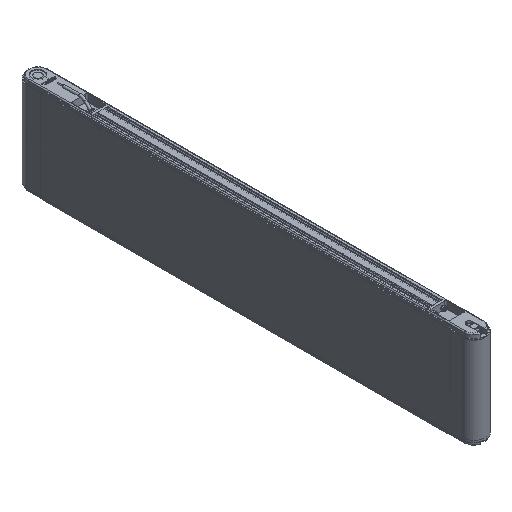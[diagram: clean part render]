
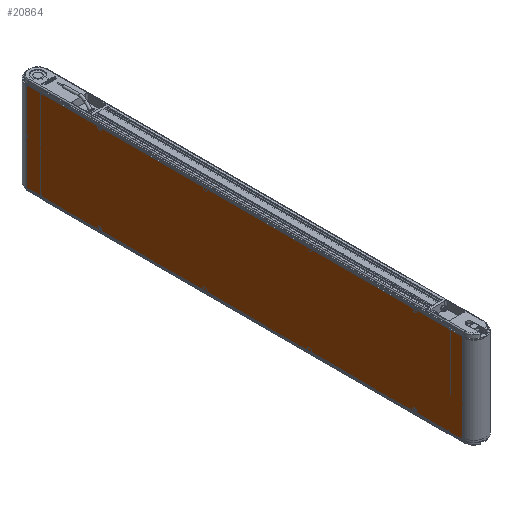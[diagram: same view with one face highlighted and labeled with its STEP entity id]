
A CAD part, isometric view. The second image highlights one B-rep face of the part: STEP entity #20864.
In plain terms, the highlighted planar face has unit normal (-1, 0, 0).
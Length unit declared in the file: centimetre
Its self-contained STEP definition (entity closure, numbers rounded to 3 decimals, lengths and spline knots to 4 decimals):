
#2220=FACE_OUTER_BOUND('',#3370,.T.);
#3370=EDGE_LOOP('',(#14062,#14063,#14064,#14065));
#4788=LINE('',#30797,#6409);
#4789=LINE('',#30802,#6410);
#4791=LINE('',#30806,#6412);
#4792=LINE('',#30807,#6413);
#6409=VECTOR('',#25162,1.);
#6410=VECTOR('',#25167,1.);
#6412=VECTOR('',#25171,1.);
#6413=VECTOR('',#25172,1.);
#8239=VERTEX_POINT('',#30791);
#8241=VERTEX_POINT('',#30795);
#8243=VERTEX_POINT('',#30800);
#8244=VERTEX_POINT('',#30805);
#10490=EDGE_CURVE('',#8239,#8241,#4788,.T.);
#10492=EDGE_CURVE('',#8243,#8241,#4789,.T.);
#10494=EDGE_CURVE('',#8243,#8244,#4791,.T.);
#10495=EDGE_CURVE('',#8244,#8239,#4792,.T.);
#14062=ORIENTED_EDGE('',*,*,#10494,.T.);
#14063=ORIENTED_EDGE('',*,*,#10495,.T.);
#14064=ORIENTED_EDGE('',*,*,#10490,.T.);
#14065=ORIENTED_EDGE('',*,*,#10492,.F.);
#19107=PLANE('',#22301);
#20864=ADVANCED_FACE('',(#2220),#19107,.T.);
#22301=AXIS2_PLACEMENT_3D('',#30804,#25169,#25170);
#25162=DIRECTION('',(0.,1.,0.));
#25167=DIRECTION('',(0.,0.,1.));
#25169=DIRECTION('center_axis',(-1.,0.,0.));
#25170=DIRECTION('ref_axis',(0.,0.,
1.));
#25171=DIRECTION('',(0.,-1.,0.));
#25172=DIRECTION('',(0.,0.,1.));
#30791=CARTESIAN_POINT('',(-2.33,-77.,9.25));
#30795=CARTESIAN_POINT('',(-2.33,13.,9.25));
#30797=CARTESIAN_POINT('',(-2.33,13.,9.25));
#30800=CARTESIAN_POINT('',(-2.33,13.,-9.25));
#30802=CARTESIAN_POINT('',(-2.33,13.,0.));
#30804=CARTESIAN_POINT('Origin',(-2.33,13.,0.));
#30805=CARTESIAN_POINT('',(-2.33,-77.,-9.25));
#30806=CARTESIAN_POINT('',(-2.33,13.,-9.25));
#30807=CARTESIAN_POINT('',(-2.33,-77.,0.));
